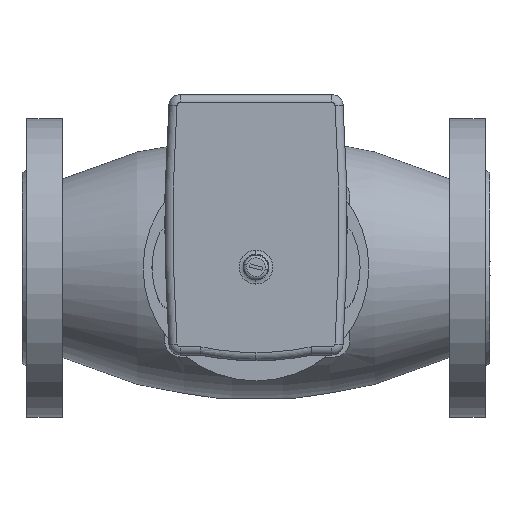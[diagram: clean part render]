
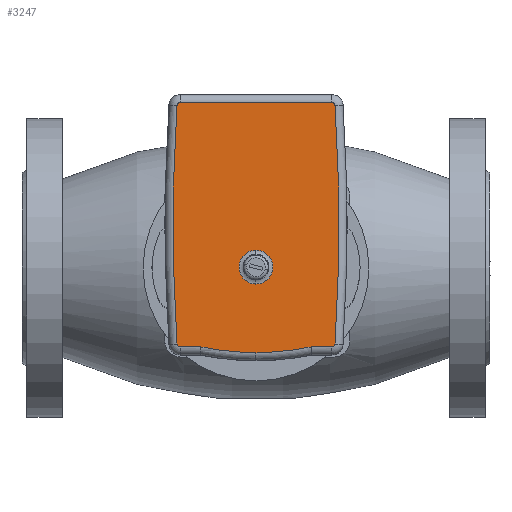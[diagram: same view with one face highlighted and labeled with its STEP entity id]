
A CAD part, top view. The second image highlights one B-rep face of the part: STEP entity #3247.
In plain terms, the highlighted planar face has unit normal (0, 0, 1).
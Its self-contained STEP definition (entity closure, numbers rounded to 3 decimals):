
#84 = AXIS2_PLACEMENT_3D ( 'NONE', #10815, #1890, #6459 ) ;
#107 = DIRECTION ( 'NONE',  ( 0., 0., -1. ) ) ;
#168 = CIRCLE ( 'NONE', #3676, 1.964 ) ;
#217 = EDGE_CURVE ( 'NONE', #5425, #712, #168, .T. ) ;
#225 = DIRECTION ( 'NONE',  ( 0., 0., -1. ) ) ;
#462 = LINE ( 'NONE', #1770, #8425 ) ;
#465 = VECTOR ( 'NONE', #13428, 1000. ) ;
#518 = EDGE_CURVE ( 'NONE', #14014, #4937, #9336, .T. ) ;
#560 = CIRCLE ( 'NONE', #8290, 1.964 ) ;
#610 = EDGE_CURVE ( 'NONE', #12748, #7037, #6527, .T. ) ;
#627 = EDGE_LOOP ( 'NONE', ( #6594, #3207, #4930, #7972, #12971, #5524, #1358, #13010, #5421, #7093, #11660 ) ) ;
#712 = VERTEX_POINT ( 'NONE', #12881 ) ;
#1061 = DIRECTION ( 'NONE',  ( 0., 0., -1. ) ) ;
#1228 = EDGE_CURVE ( 'NONE', #7718, #7231, #462, .T. ) ;
#1358 = ORIENTED_EDGE ( 'NONE', *, *, #4608, .F. ) ;
#1370 = EDGE_CURVE ( 'NONE', #11156, #5425, #9885, .T. ) ;
#1520 = EDGE_LOOP ( 'NONE', ( #7371, #14464 ) ) ;
#1622 = DIRECTION ( 'NONE',  ( 0., -1., 0. ) ) ;
#1770 = CARTESIAN_POINT ( 'NONE',  ( 105.754, 93.528, 503.141 ) ) ;
#1774 = CIRCLE ( 'NONE', #8592, 169.964 ) ;
#1849 = DIRECTION ( 'NONE',  ( -1., 0., 0. ) ) ;
#1883 = DIRECTION ( 'NONE',  ( 0., -1., 0. ) ) ;
#1890 = DIRECTION ( 'NONE',  ( 0., 0., -1. ) ) ;
#1956 = DIRECTION ( 'NONE',  ( 0., -1., 0. ) ) ;
#2098 = LINE ( 'NONE', #12469, #465 ) ;
#2335 = CARTESIAN_POINT ( 'NONE',  ( 105.754, 244.964, 503.141 ) ) ;
#2457 = DIRECTION ( 'NONE',  ( 0., -1., 0. ) ) ;
#2967 = CARTESIAN_POINT ( 'NONE',  ( 24.658, 93.528, 503.141 ) ) ;
#3000 = DIRECTION ( 'NONE',  ( 0., -1., 0. ) ) ;
#3207 = ORIENTED_EDGE ( 'NONE', *, *, #1370, .F. ) ;
#3247 = ADVANCED_FACE ( 'NONE', ( #10954, #5475 ), #6381, .F. ) ;
#3265 = VERTEX_POINT ( 'NONE', #5550 ) ;
#3419 = EDGE_CURVE ( 'NONE', #10337, #7718, #560, .T. ) ;
#3481 = CIRCLE ( 'NONE', #5376, 1096.964 ) ;
#3594 = DIRECTION ( 'NONE',  ( 0., -1., 0. ) ) ;
#3676 = AXIS2_PLACEMENT_3D ( 'NONE', #10952, #13222, #1883 ) ;
#3859 = VERTEX_POINT ( 'NONE', #10473 ) ;
#3937 = AXIS2_PLACEMENT_3D ( 'NONE', #5589, #225, #3594 ) ;
#4121 = DIRECTION ( 'NONE',  ( 0., 0., -1. ) ) ;
#4268 = AXIS2_PLACEMENT_3D ( 'NONE', #5206, #8589, #3000 ) ;
#4608 = EDGE_CURVE ( 'NONE', #7037, #10337, #6209, .T. ) ;
#4930 = ORIENTED_EDGE ( 'NONE', *, *, #8969, .F. ) ;
#4937 = VERTEX_POINT ( 'NONE', #9649 ) ;
#5206 = CARTESIAN_POINT ( 'NONE',  ( 58.754, 143., 503.141 ) ) ;
#5246 = AXIS2_PLACEMENT_3D ( 'NONE', #13081, #1061, #1956 ) ;
#5376 = AXIS2_PLACEMENT_3D ( 'NONE', #13381, #7829, #11232 ) ;
#5421 = ORIENTED_EDGE ( 'NONE', *, *, #7682, .F. ) ;
#5425 = VERTEX_POINT ( 'NONE', #14525 ) ;
#5437 = VERTEX_POINT ( 'NONE', #7803 ) ;
#5475 = FACE_OUTER_BOUND ( 'NONE', #627, .T. ) ;
#5524 = ORIENTED_EDGE ( 'NONE', *, *, #3419, .F. ) ;
#5550 = CARTESIAN_POINT ( 'NONE',  ( 58.754, 90.073, 503.141 ) ) ;
#5585 = CARTESIAN_POINT ( 'NONE',  ( 24.155, 93.528, 503.141 ) ) ;
#5589 = CARTESIAN_POINT ( 'NONE',  ( 105.754, 243., 503.141 ) ) ;
#5626 = CARTESIAN_POINT ( 'NONE',  ( 105.754, 95.492, 503.141 ) ) ;
#6209 = CIRCLE ( 'NONE', #10443, 1096.964 ) ;
#6381 = PLANE ( 'NONE',  #5246 ) ;
#6459 = DIRECTION ( 'NONE',  ( 0., -1., 0. ) ) ;
#6527 = CIRCLE ( 'NONE', #3937, 1.964 ) ;
#6594 = ORIENTED_EDGE ( 'NONE', *, *, #217, .F. ) ;
#6807 = DIRECTION ( 'NONE',  ( 0., 0., -1. ) ) ;
#6946 = CARTESIAN_POINT ( 'NONE',  ( -986.76, 169.246, 503.141 ) ) ;
#7037 = VERTEX_POINT ( 'NONE', #10961 ) ;
#7051 = EDGE_CURVE ( 'NONE', #5437, #3859, #11325, .T. ) ;
#7062 = EDGE_CURVE ( 'NONE', #3859, #5437, #13221, .T. ) ;
#7093 = ORIENTED_EDGE ( 'NONE', *, *, #518, .F. ) ;
#7210 = CARTESIAN_POINT ( 'NONE',  ( 58.754, 260.037, 503.141 ) ) ;
#7231 = VERTEX_POINT ( 'NONE', #11090 ) ;
#7371 = ORIENTED_EDGE ( 'NONE', *, *, #7051, .T. ) ;
#7439 = CARTESIAN_POINT ( 'NONE',  ( 11.754, 243., 503.141 ) ) ;
#7596 = CARTESIAN_POINT ( 'NONE',  ( 58.754, 260.037, 503.141 ) ) ;
#7682 = EDGE_CURVE ( 'NONE', #4937, #12748, #2098, .T. ) ;
#7718 = VERTEX_POINT ( 'NONE', #11355 ) ;
#7803 = CARTESIAN_POINT ( 'NONE',  ( 58.754, 132.479, 503.141 ) ) ;
#7829 = DIRECTION ( 'NONE',  ( 0., 0., -1. ) ) ;
#7972 = ORIENTED_EDGE ( 'NONE', *, *, #11202, .F. ) ;
#8290 = AXIS2_PLACEMENT_3D ( 'NONE', #5626, #107, #2457 ) ;
#8425 = VECTOR ( 'NONE', #1849, 1000. ) ;
#8516 = EDGE_CURVE ( 'NONE', #712, #14014, #3481, .T. ) ;
#8589 = DIRECTION ( 'NONE',  ( 0., 0., -1. ) ) ;
#8592 = AXIS2_PLACEMENT_3D ( 'NONE', #7210, #11707, #1622 ) ;
#8834 = DIRECTION ( 'NONE',  ( 0., -1., 0. ) ) ;
#8969 = EDGE_CURVE ( 'NONE', #3265, #11156, #1774, .T. ) ;
#9336 = CIRCLE ( 'NONE', #13117, 1.964 ) ;
#9649 = CARTESIAN_POINT ( 'NONE',  ( 11.754, 244.964, 503.141 ) ) ;
#9885 = LINE ( 'NONE', #5585, #12655 ) ;
#10015 = DIRECTION ( 'NONE',  ( -1., 0., 0. ) ) ;
#10337 = VERTEX_POINT ( 'NONE', #12264 ) ;
#10443 = AXIS2_PLACEMENT_3D ( 'NONE', #6946, #6807, #11295 ) ;
#10473 = CARTESIAN_POINT ( 'NONE',  ( 58.754, 153.521, 503.141 ) ) ;
#10815 = CARTESIAN_POINT ( 'NONE',  ( 58.754, 143., 503.141 ) ) ;
#10952 = CARTESIAN_POINT ( 'NONE',  ( 11.754, 95.492, 503.141 ) ) ;
#10954 = FACE_BOUND ( 'NONE', #1520, .T. ) ;
#10961 = CARTESIAN_POINT ( 'NONE',  ( 107.714, 243.132, 503.141 ) ) ;
#11090 = CARTESIAN_POINT ( 'NONE',  ( 92.849, 93.528, 503.141 ) ) ;
#11156 = VERTEX_POINT ( 'NONE', #2967 ) ;
#11202 = EDGE_CURVE ( 'NONE', #7231, #3265, #13235, .T. ) ;
#11232 = DIRECTION ( 'NONE',  ( 0., -1., 0. ) ) ;
#11295 = DIRECTION ( 'NONE',  ( 0., -1., 0. ) ) ;
#11325 = CIRCLE ( 'NONE', #84, 10.521 ) ;
#11355 = CARTESIAN_POINT ( 'NONE',  ( 105.754, 93.528, 503.141 ) ) ;
#11660 = ORIENTED_EDGE ( 'NONE', *, *, #8516, .F. ) ;
#11707 = DIRECTION ( 'NONE',  ( 0., 0., -1. ) ) ;
#12089 = DIRECTION ( 'NONE',  ( 0., -1., 0. ) ) ;
#12264 = CARTESIAN_POINT ( 'NONE',  ( 107.714, 95.36, 503.141 ) ) ;
#12469 = CARTESIAN_POINT ( 'NONE',  ( 11.754, 244.964, 503.141 ) ) ;
#12521 = AXIS2_PLACEMENT_3D ( 'NONE', #7596, #13136, #12089 ) ;
#12655 = VECTOR ( 'NONE', #10015, 1000. ) ;
#12748 = VERTEX_POINT ( 'NONE', #2335 ) ;
#12881 = CARTESIAN_POINT ( 'NONE',  ( 9.794, 95.36, 503.141 ) ) ;
#12968 = CARTESIAN_POINT ( 'NONE',  ( 9.794, 243.132, 503.141 ) ) ;
#12971 = ORIENTED_EDGE ( 'NONE', *, *, #1228, .F. ) ;
#13010 = ORIENTED_EDGE ( 'NONE', *, *, #610, .F. ) ;
#13081 = CARTESIAN_POINT ( 'NONE',  ( 58.754, 143., 503.141 ) ) ;
#13117 = AXIS2_PLACEMENT_3D ( 'NONE', #7439, #4121, #8834 ) ;
#13136 = DIRECTION ( 'NONE',  ( 0., 0., -1. ) ) ;
#13221 = CIRCLE ( 'NONE', #4268, 10.521 ) ;
#13222 = DIRECTION ( 'NONE',  ( 0., 0., -1. ) ) ;
#13235 = CIRCLE ( 'NONE', #12521, 169.964 ) ;
#13381 = CARTESIAN_POINT ( 'NONE',  ( 1104.267, 169.246, 503.141 ) ) ;
#13428 = DIRECTION ( 'NONE',  ( 1., 0., 0. ) ) ;
#14014 = VERTEX_POINT ( 'NONE', #12968 ) ;
#14464 = ORIENTED_EDGE ( 'NONE', *, *, #7062, .T. ) ;
#14525 = CARTESIAN_POINT ( 'NONE',  ( 11.754, 93.528, 503.141 ) ) ;
